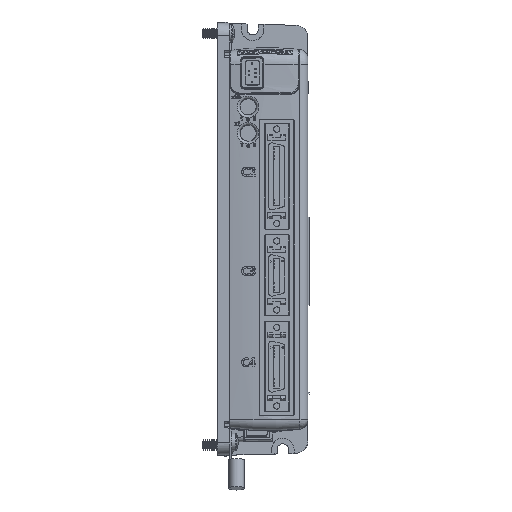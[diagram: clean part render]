
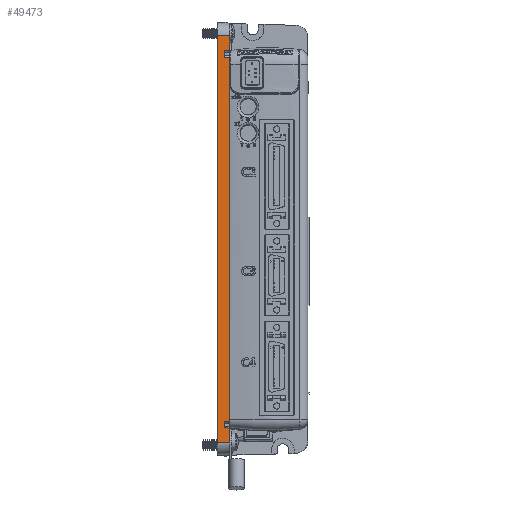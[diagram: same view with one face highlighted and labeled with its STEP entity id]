
A CAD part, top view. The second image highlights one B-rep face of the part: STEP entity #49473.
In plain terms, the highlighted planar face has unit normal (0.026, 0, 1).
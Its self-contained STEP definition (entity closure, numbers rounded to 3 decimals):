
#712 = PLANE ( 'NONE',  #12221 ) ;
#1176 = CARTESIAN_POINT ( 'NONE',  ( -27.56, 245.95, -39.041 ) ) ;
#3581 = CARTESIAN_POINT ( 'NONE',  ( -19.856, 98.853, -39.243 ) ) ;
#5849 = LINE ( 'NONE', #68888, #50963 ) ;
#12221 = AXIS2_PLACEMENT_3D ( 'NONE', #53513, #67373, #55239 ) ;
#13419 = LINE ( 'NONE', #83724, #167858 ) ;
#14232 = CARTESIAN_POINT ( 'NONE',  ( -19.162, 98.89, -39.261 ) ) ;
#14447 = CARTESIAN_POINT ( 'NONE',  ( -19.162, 85.59, -39.261 ) ) ;
#15182 = CARTESIAN_POINT ( 'NONE',  ( -21.162, 96.295, -39.209 ) ) ;
#19911 = LINE ( 'NONE', #1176, #91888 ) ;
#32380 = EDGE_CURVE ( 'NONE', #136813, #74934, #73517, .T. ) ;
#33914 = CARTESIAN_POINT ( 'NONE',  ( -21.162, 85.59, -39.209 ) ) ;
#34608 = LINE ( 'NONE', #33914, #73653 ) ;
#37324 = LINE ( 'NONE', #3581, #160927 ) ;
#42803 = DIRECTION ( 'NONE',  ( -0.999, 0.026, 0.026 ) ) ;
#46900 = CARTESIAN_POINT ( 'NONE',  ( -24.162, 85.59, -39.13 ) ) ;
#47245 = ORIENTED_EDGE ( 'NONE', *, *, #159652, .T. ) ;
#49074 = EDGE_CURVE ( 'NONE', #63779, #140116, #34608, .T. ) ;
#49473 = ADVANCED_FACE ( 'NONE', ( #61041 ), #712, .T. ) ;
#50963 = VECTOR ( 'NONE', #122428, 1000. ) ;
#50974 = LINE ( 'NONE', #46900, #55112 ) ;
#52631 = EDGE_CURVE ( 'NONE', #154784, #164934, #83527, .T. ) ;
#53513 = CARTESIAN_POINT ( 'NONE',  ( -19.162, 85.59, -39.261 ) ) ;
#55112 = VECTOR ( 'NONE', #87183, 1000. ) ;
#55239 = DIRECTION ( 'NONE',  ( 1., 0., -0.026 ) ) ;
#55962 = LINE ( 'NONE', #166905, #86858 ) ;
#57779 = DIRECTION ( 'NONE',  ( 0., 1., 0. ) ) ;
#60270 = DIRECTION ( 'NONE',  ( 0., -1., 0. ) ) ;
#60962 = ORIENTED_EDGE ( 'NONE', *, *, #92968, .F. ) ;
#61041 = FACE_OUTER_BOUND ( 'NONE', #147620, .T. ) ;
#61976 = ORIENTED_EDGE ( 'NONE', *, *, #86416, .T. ) ;
#63779 = VERTEX_POINT ( 'NONE', #95676 ) ;
#67373 = DIRECTION ( 'NONE',  ( 0.026, 0., 1. ) ) ;
#67387 = CARTESIAN_POINT ( 'NONE',  ( -21.162, 243.795, -39.209 ) ) ;
#68888 = CARTESIAN_POINT ( 'NONE',  ( -19.162, 85.59, -39.261 ) ) ;
#70403 = EDGE_CURVE ( 'NONE', #120418, #153131, #153440, .T. ) ;
#71088 = DIRECTION ( 'NONE',  ( 0.999, 0.026, -0.026 ) ) ;
#72332 = EDGE_CURVE ( 'NONE', #144955, #164934, #55962, .T. ) ;
#73517 = LINE ( 'NONE', #119953, #135451 ) ;
#73653 = VECTOR ( 'NONE', #60270, 1000. ) ;
#73977 = ORIENTED_EDGE ( 'NONE', *, *, #52631, .T. ) ;
#74794 = LINE ( 'NONE', #132835, #85218 ) ;
#74934 = VERTEX_POINT ( 'NONE', #80676 ) ;
#80676 = CARTESIAN_POINT ( 'NONE',  ( -24.162, 252.422, -39.13 ) ) ;
#83311 = VECTOR ( 'NONE', #132494, 1000. ) ;
#83527 = LINE ( 'NONE', #104800, #122746 ) ;
#83724 = CARTESIAN_POINT ( 'NONE',  ( -19.162, 85.59, -39.261 ) ) ;
#85218 = VECTOR ( 'NONE', #71088, 1000. ) ;
#86416 = EDGE_CURVE ( 'NONE', #169133, #94506, #74794, .T. ) ;
#86858 = VECTOR ( 'NONE', #112232, 1000. ) ;
#87010 = CARTESIAN_POINT ( 'NONE',  ( -19.162, 246.39, -39.261 ) ) ;
#87183 = DIRECTION ( 'NONE',  ( 0., 1., 0. ) ) ;
#87393 = CARTESIAN_POINT ( 'NONE',  ( -10.904, 243.257, -39.477 ) ) ;
#91815 = LINE ( 'NONE', #87393, #120566 ) ;
#91888 = VECTOR ( 'NONE', #170423, 1000. ) ;
#92968 = EDGE_CURVE ( 'NONE', #169133, #74934, #50974, .T. ) ;
#94506 = VERTEX_POINT ( 'NONE', #152645 ) ;
#95676 = CARTESIAN_POINT ( 'NONE',  ( -21.162, 246.285, -39.209 ) ) ;
#104718 = ORIENTED_EDGE ( 'NONE', *, *, #155224, .T. ) ;
#104800 = CARTESIAN_POINT ( 'NONE',  ( -18.608, 96.161, -39.276 ) ) ;
#110782 = CARTESIAN_POINT ( 'NONE',  ( -21.162, 98.785, -39.209 ) ) ;
#112232 = DIRECTION ( 'NONE',  ( 0., -1., 0. ) ) ;
#114748 = VERTEX_POINT ( 'NONE', #87010 ) ;
#118121 = ORIENTED_EDGE ( 'NONE', *, *, #32380, .T. ) ;
#119381 = CARTESIAN_POINT ( 'NONE',  ( -24.162, 90.457, -39.13 ) ) ;
#119953 = CARTESIAN_POINT ( 'NONE',  ( -14.802, 252.177, -39.375 ) ) ;
#120090 = EDGE_CURVE ( 'NONE', #153131, #140116, #91815, .T. ) ;
#120394 = ORIENTED_EDGE ( 'NONE', *, *, #162392, .T. ) ;
#120418 = VERTEX_POINT ( 'NONE', #14232 ) ;
#120566 = VECTOR ( 'NONE', #151950, 1000. ) ;
#122155 = ORIENTED_EDGE ( 'NONE', *, *, #70403, .T. ) ;
#122428 = DIRECTION ( 'NONE',  ( 0., 1., 0. ) ) ;
#122746 = VECTOR ( 'NONE', #157192, 1000. ) ;
#130620 = ORIENTED_EDGE ( 'NONE', *, *, #49074, .F. ) ;
#132494 = DIRECTION ( 'NONE',  ( 0., 1., 0. ) ) ;
#132835 = CARTESIAN_POINT ( 'NONE',  ( -19.292, 90.585, -39.258 ) ) ;
#135451 = VECTOR ( 'NONE', #42803, 1000. ) ;
#136813 = VERTEX_POINT ( 'NONE', #160735 ) ;
#140116 = VERTEX_POINT ( 'NONE', #67387 ) ;
#142575 = CARTESIAN_POINT ( 'NONE',  ( -19.162, 243.69, -39.261 ) ) ;
#144955 = VERTEX_POINT ( 'NONE', #110782 ) ;
#147620 = EDGE_LOOP ( 'NONE', ( #130620, #104718, #47245, #118121, #60962, #61976, #120394, #73977, #164394, #148347, #122155, #162193 ) ) ;
#148077 = CARTESIAN_POINT ( 'NONE',  ( -19.162, 96.19, -39.261 ) ) ;
#148347 = ORIENTED_EDGE ( 'NONE', *, *, #160990, .T. ) ;
#151950 = DIRECTION ( 'NONE',  ( -0.998, 0.052, 0.026 ) ) ;
#152645 = CARTESIAN_POINT ( 'NONE',  ( -19.162, 90.588, -39.261 ) ) ;
#153131 = VERTEX_POINT ( 'NONE', #142575 ) ;
#153440 = LINE ( 'NONE', #14447, #83311 ) ;
#154784 = VERTEX_POINT ( 'NONE', #148077 ) ;
#155224 = EDGE_CURVE ( 'NONE', #63779, #114748, #19911, .T. ) ;
#157192 = DIRECTION ( 'NONE',  ( -0.998, 0.052, 0.026 ) ) ;
#159652 = EDGE_CURVE ( 'NONE', #114748, #136813, #13419, .T. ) ;
#160735 = CARTESIAN_POINT ( 'NONE',  ( -19.162, 252.292, -39.261 ) ) ;
#160927 = VECTOR ( 'NONE', #162411, 1000. ) ;
#160990 = EDGE_CURVE ( 'NONE', #144955, #120418, #37324, .T. ) ;
#162193 = ORIENTED_EDGE ( 'NONE', *, *, #120090, .T. ) ;
#162392 = EDGE_CURVE ( 'NONE', #94506, #154784, #5849, .T. ) ;
#162411 = DIRECTION ( 'NONE',  ( 0.998, 0.052, -0.026 ) ) ;
#164394 = ORIENTED_EDGE ( 'NONE', *, *, #72332, .F. ) ;
#164934 = VERTEX_POINT ( 'NONE', #15182 ) ;
#166905 = CARTESIAN_POINT ( 'NONE',  ( -21.162, 85.59, -39.209 ) ) ;
#167858 = VECTOR ( 'NONE', #57779, 1000. ) ;
#169133 = VERTEX_POINT ( 'NONE', #119381 ) ;
#170423 = DIRECTION ( 'NONE',  ( 0.998, 0.052, -0.026 ) ) ;
